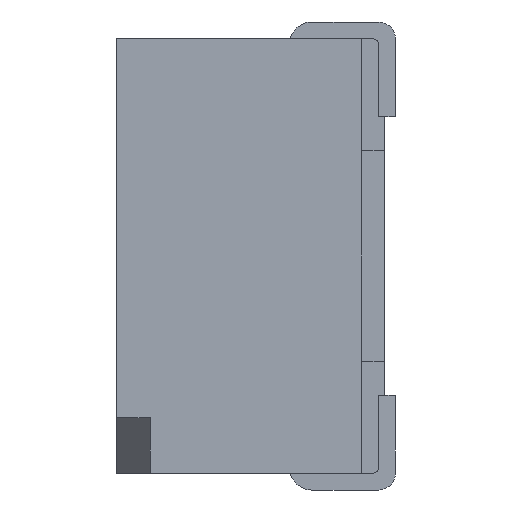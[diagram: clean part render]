
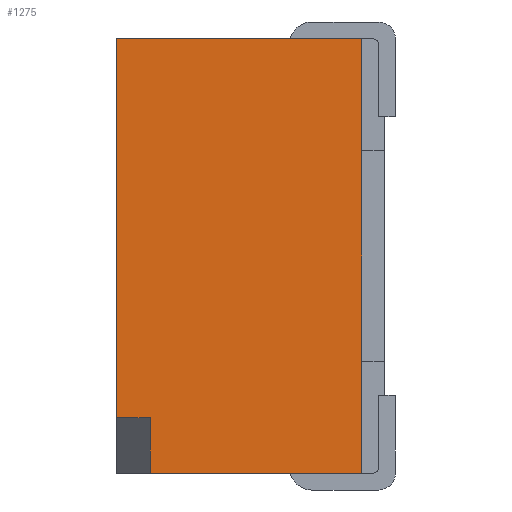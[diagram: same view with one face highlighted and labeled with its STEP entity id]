
A CAD part, left-side view. The second image highlights one B-rep face of the part: STEP entity #1275.
In plain terms, the highlighted planar face has unit normal (-1, 0, 0).
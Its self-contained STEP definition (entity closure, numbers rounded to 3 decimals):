
#22 = LINE ( 'NONE', #371, #3963 ) ;
#94 = CARTESIAN_POINT ( 'NONE',  ( -2.7, 0.2, -1.95 ) ) ;
#148 = AXIS2_PLACEMENT_3D ( 'NONE', #1369, #3962, #693 ) ;
#150 = DIRECTION ( 'NONE',  ( 0., 0., 1. ) ) ;
#259 = VERTEX_POINT ( 'NONE', #3850 ) ;
#371 = CARTESIAN_POINT ( 'NONE',  ( -2.7, 0.2, -1.95 ) ) ;
#372 = EDGE_CURVE ( 'NONE', #1167, #3066, #3889, .T. ) ;
#518 = ORIENTED_EDGE ( 'NONE', *, *, #714, .F. ) ;
#656 = DIRECTION ( 'NONE',  ( 0., 0., 1. ) ) ;
#693 = DIRECTION ( 'NONE',  ( 0., 1., 0. ) ) ;
#714 = EDGE_CURVE ( 'NONE', #2237, #1471, #3997, .T. ) ;
#720 = VECTOR ( 'NONE', #1927, 1000. ) ;
#1111 = EDGE_CURVE ( 'NONE', #259, #3066, #3808, .T. ) ;
#1112 = ORIENTED_EDGE ( 'NONE', *, *, #3214, .T. ) ;
#1167 = VERTEX_POINT ( 'NONE', #2131 ) ;
#1183 = PLANE ( 'NONE',  #148 ) ;
#1196 = EDGE_LOOP ( 'NONE', ( #1265, #1112, #518, #2741, #3289, #4265 ) ) ;
#1200 = VECTOR ( 'NONE', #2339, 1000. ) ;
#1211 = CARTESIAN_POINT ( 'NONE',  ( -2.7, 2.4, 1.95 ) ) ;
#1265 = ORIENTED_EDGE ( 'NONE', *, *, #4314, .T. ) ;
#1275 = ADVANCED_FACE ( 'NONE', ( #4189 ), #1183, .T. ) ;
#1369 = CARTESIAN_POINT ( 'NONE',  ( -2.7, 0.2, 1.95 ) ) ;
#1403 = LINE ( 'NONE', #3735, #1984 ) ;
#1471 = VERTEX_POINT ( 'NONE', #3784 ) ;
#1702 = EDGE_CURVE ( 'NONE', #2237, #1167, #1403, .T. ) ;
#1816 = VECTOR ( 'NONE', #3344, 1000. ) ;
#1824 = CARTESIAN_POINT ( 'NONE',  ( -2.7, 2.1, -1.45 ) ) ;
#1927 = DIRECTION ( 'NONE',  ( 0., -1., 0. ) ) ;
#1984 = VECTOR ( 'NONE', #3114, 1000. ) ;
#2013 = CARTESIAN_POINT ( 'NONE',  ( -2.7, 2.1, -1.95 ) ) ;
#2131 = CARTESIAN_POINT ( 'NONE',  ( -2.7, 2.4, -1.45 ) ) ;
#2213 = CARTESIAN_POINT ( 'NONE',  ( -2.7, 2.4, -1.45 ) ) ;
#2237 = VERTEX_POINT ( 'NONE', #1211 ) ;
#2339 = DIRECTION ( 'NONE',  ( 0., -1., 0. ) ) ;
#2398 = VERTEX_POINT ( 'NONE', #94 ) ;
#2687 = VECTOR ( 'NONE', #150, 1000. ) ;
#2741 = ORIENTED_EDGE ( 'NONE', *, *, #1702, .T. ) ;
#3066 = VERTEX_POINT ( 'NONE', #1824 ) ;
#3114 = DIRECTION ( 'NONE',  ( 0., 0., -1. ) ) ;
#3214 = EDGE_CURVE ( 'NONE', #2398, #1471, #22, .T. ) ;
#3289 = ORIENTED_EDGE ( 'NONE', *, *, #372, .T. ) ;
#3344 = DIRECTION ( 'NONE',  ( 0., -1., 0. ) ) ;
#3694 = CARTESIAN_POINT ( 'NONE',  ( -2.7, 0.2, 1.95 ) ) ;
#3735 = CARTESIAN_POINT ( 'NONE',  ( -2.7, 2.4, -1.45 ) ) ;
#3753 = LINE ( 'NONE', #2013, #1200 ) ;
#3784 = CARTESIAN_POINT ( 'NONE',  ( -2.7, 0.2, 1.95 ) ) ;
#3808 = LINE ( 'NONE', #3834, #2687 ) ;
#3834 = CARTESIAN_POINT ( 'NONE',  ( -2.7, 2.1, -1.45 ) ) ;
#3850 = CARTESIAN_POINT ( 'NONE',  ( -2.7, 2.1, -1.95 ) ) ;
#3889 = LINE ( 'NONE', #2213, #720 ) ;
#3962 = DIRECTION ( 'NONE',  ( -1., 0., 0. ) ) ;
#3963 = VECTOR ( 'NONE', #656, 1000. ) ;
#3997 = LINE ( 'NONE', #3694, #1816 ) ;
#4189 = FACE_OUTER_BOUND ( 'NONE', #1196, .T. ) ;
#4265 = ORIENTED_EDGE ( 'NONE', *, *, #1111, .F. ) ;
#4314 = EDGE_CURVE ( 'NONE', #259, #2398, #3753, .T. ) ;
